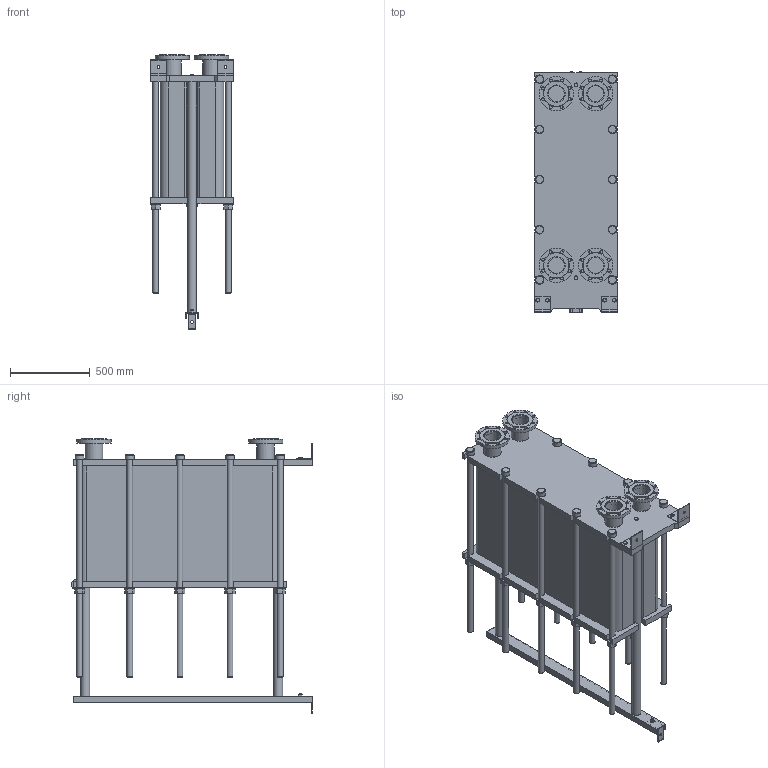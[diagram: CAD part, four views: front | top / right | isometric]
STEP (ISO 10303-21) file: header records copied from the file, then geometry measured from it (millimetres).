
FILE_DESCRIPTION(/* description */ (''),/* implementation_level */ '2;1');
FILE_NAME(/* name */ 'C:\Users\zhuro\Desktop\ENCO\TO\ЭН-04\ЭН-0,5-04-210-1.stp',/* time_stamp */ '2022-06-06T11:04:29+03:00',/* author */ ('zhuro'),/* organization */ (''),/* preprocessor_version */ 'ST-DEVELOPER v18.1',/* originating_system */ 'Autodesk Inventor 2022',/* authorisation */ '');
FILE_SCHEMA (('AUTOMOTIVE_DESIGN { 1 0 10303 214 3 1 1 }'));
Length unit declared in the file: millimetre
Products named in the file (1): ЭН-0,5-04-210-1
Bounding box: 520 x 1510 x 1720 mm (x, y, z)
Volume: 439200595.4 mm3; surface area: 10774172.4 mm2
Topology: 45 solids, 45 shells, 668 faces, 1611 edges, 1048 vertices
Faces by surface type: plane 457, cylinder 166, cone 39, torus 6
Full cylindrical faces by diameter (mm): 8 x4, 10 x2, 16 x8, 18 x35, 36 x25, 40 x2, 42 x1, 45 x4, 54 x10, 57 x2, 60 x10, 68 x2, 100 x4, 110 x8, 215 x4
Entity records: 23607 total; most frequent: CARTESIAN_POINT 7348, DIRECTION 3371, ORIENTED_EDGE 3142, EDGE_CURVE 1571, AXIS2_PLACEMENT_3D 1199, VERTEX_POINT 1044, LINE 973, VECTOR 973
